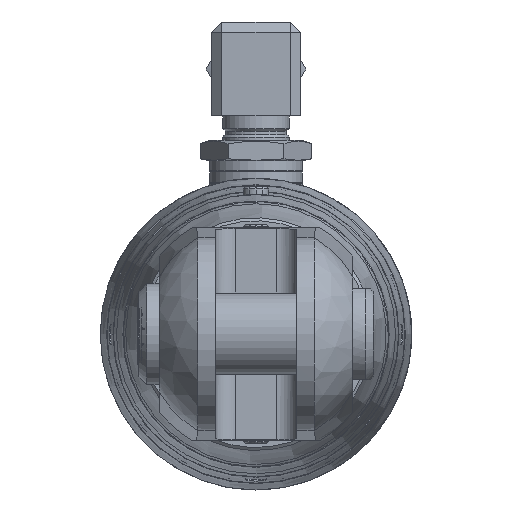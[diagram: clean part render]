
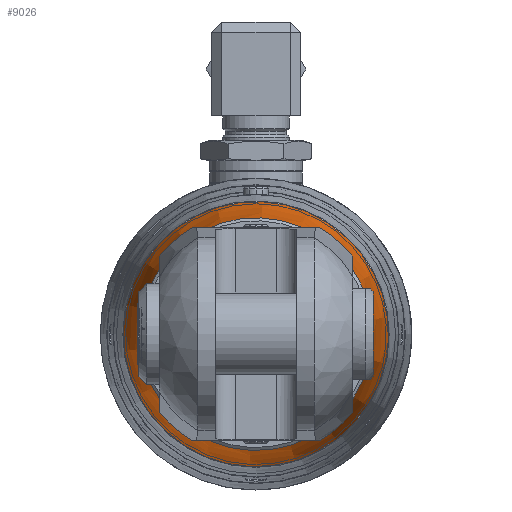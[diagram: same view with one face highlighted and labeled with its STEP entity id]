
A CAD part, left-side view. The second image highlights one B-rep face of the part: STEP entity #9026.
In plain terms, the highlighted conical face has half-angle 10 degrees and reference radius 24.512 mm.
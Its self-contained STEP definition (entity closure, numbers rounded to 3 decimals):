
#246=CONICAL_SURFACE('',#9713,24.512,0.175);
#644=CIRCLE('',#9711,22.924);
#645=CIRCLE('',#9712,22.924);
#646=CIRCLE('',#9714,26.101);
#647=CIRCLE('',#9715,26.101);
#1685=FACE_OUTER_BOUND('',#2204,.T.);
#2204=EDGE_LOOP('',(#6817,#6818,#6819,#6820,#6821,#6822));
#2807=LINE('',#14046,#3393);
#3393=VECTOR('',#11227,24.512);
#4067=VERTEX_POINT('',#14039);
#4068=VERTEX_POINT('',#14041);
#4069=VERTEX_POINT('',#14045);
#4070=VERTEX_POINT('',#14047);
#5079=EDGE_CURVE('',#4067,#4068,#644,.T.);
#5080=EDGE_CURVE('',#4068,#4067,#645,.T.);
#5081=EDGE_CURVE('',#4068,#4069,#2807,.T.);
#5082=EDGE_CURVE('',#4070,#4069,#646,.T.);
#5083=EDGE_CURVE('',#4069,#4070,#647,.T.);
#6817=ORIENTED_EDGE('',*,*,#5079,.F.);
#6818=ORIENTED_EDGE('',*,*,#5080,.F.);
#6819=ORIENTED_EDGE('',*,*,#5081,.T.);
#6820=ORIENTED_EDGE('',*,*,#5082,.F.);
#6821=ORIENTED_EDGE('',*,*,#5083,.F.);
#6822=ORIENTED_EDGE('',*,*,#5081,.F.);
#9026=ADVANCED_FACE('',(#1685),#246,.T.);
#9711=AXIS2_PLACEMENT_3D('',#14042,#11221,#11222);
#9712=AXIS2_PLACEMENT_3D('',#14043,#11223,#11224);
#9713=AXIS2_PLACEMENT_3D('',#14044,#11225,#11226);
#9714=AXIS2_PLACEMENT_3D('',#14048,#11228,#11229);
#9715=AXIS2_PLACEMENT_3D('',#14049,#11230,#11231);
#11221=DIRECTION('center_axis',(-1.,0.,0.));
#11222=DIRECTION('ref_axis',(0.,0.605,0.796));
#11223=DIRECTION('center_axis',(-1.,0.,0.));
#11224=DIRECTION('ref_axis',(0.,0.605,0.796));
#11225=DIRECTION('center_axis',(1.,0.,0.));
#11226=DIRECTION('ref_axis',(0.,-0.605,-0.796));
#11227=DIRECTION('',(0.985,0.105,0.138));
#11228=DIRECTION('center_axis',(1.,0.,0.));
#11229=DIRECTION('ref_axis',(0.,0.605,0.796));
#11230=DIRECTION('center_axis',(1.,0.,0.));
#11231=DIRECTION('ref_axis',(0.,0.605,0.796));
#14039=CARTESIAN_POINT('',(-720.258,-13.877,-18.247));
#14041=CARTESIAN_POINT('',(-720.258,13.877,18.247));
#14042=CARTESIAN_POINT('Origin',(-720.258,0.,
0.));
#14043=CARTESIAN_POINT('Origin',(-720.258,0.,
0.));
#14044=CARTESIAN_POINT('Origin',(-711.25,0.,0.));
#14045=CARTESIAN_POINT('',(-702.242,15.8,20.775));
#14046=CARTESIAN_POINT('',(-711.25,14.839,19.511));
#14047=CARTESIAN_POINT('',(-702.242,-15.8,-20.775));
#14048=CARTESIAN_POINT('Origin',(-702.242,0.,
0.));
#14049=CARTESIAN_POINT('Origin',(-702.242,0.,
0.));
